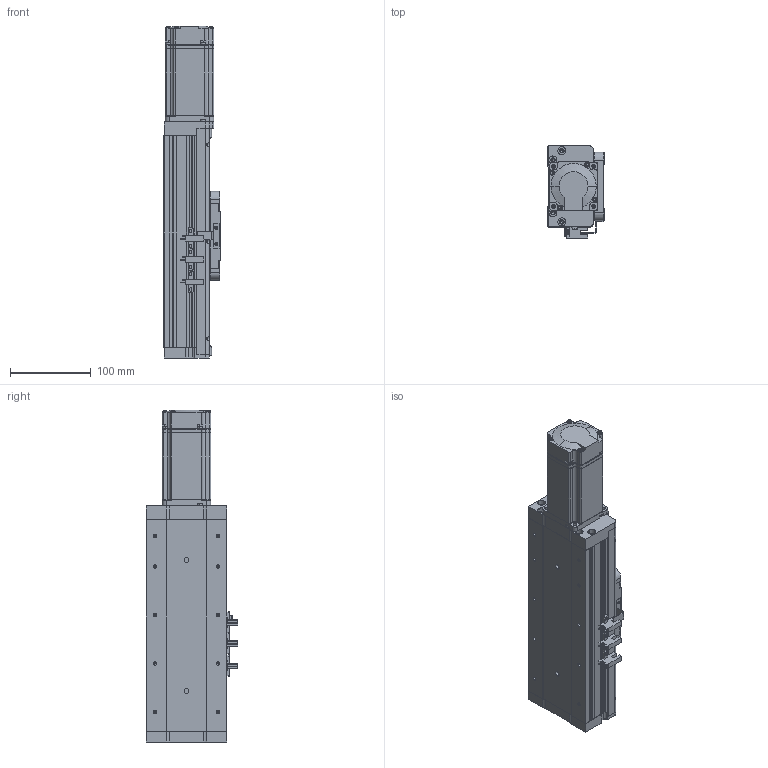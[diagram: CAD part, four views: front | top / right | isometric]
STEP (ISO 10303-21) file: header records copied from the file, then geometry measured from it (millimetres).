
FILE_DESCRIPTION (( 'STEP AP214' ), '1' );
FILE_NAME ('KSD100S-S50-MN-CR.STEP', '2019-09-02T08:37:13', ( '微软用户' ), ( '微软中国' ), 'SwSTEP 2.0', 'SolidWorks 2014', '' );
FILE_SCHEMA (( 'AUTOMOTIVE_DESIGN' ));
Length unit declared in the file: millimetre
Products named in the file (12): MHMD042G1CA_2_03; U倰嫖萇EEㄜSX672; 感应片100宽全封闭; 100宽马达安装板全封闭不带电机座; 100宽端板全封闭; 100宽滚珠螺姆安装板1防护罩; 100宽滚珠螺姆安装板1; 100宽盖板压板不带电机座; 100宽盖板50行程不带电机座; 100宽侧板50行程不带电机座; 100宽底板全封闭50行程不带电机座; KSD100S-S50-MN-CR
Assembly tree (15 placements, depth 2):
  KSD100S-S50-MN-CR
    100宽底板全封闭50行程不带电机座
    100宽侧板50行程不带电机座  x2
    100宽盖板50行程不带电机座
    100宽盖板压板不带电机座  x2
    100宽滚珠螺姆安装板1
    100宽滚珠螺姆安装板1防护罩
    100宽端板全封闭
    100宽马达安装板全封闭不带电机座
    感应片100宽全封闭
    U倰嫖萇EEㄜSX672  x3
    MHMD042G1CA_2_03
Bounding box: 70 x 113.7 x 410.5 mm (x, y, z)
Volume: 697550.8 mm3; surface area: 332529.4 mm2
Topology: 14 solids, 15 shells, 1388 faces, 3894 edges, 2520 vertices
Faces by surface type: plane 652, cylinder 561, cone 157, bspline 18
Entity records: 47234 total; most frequent: CARTESIAN_POINT 7309, DIRECTION 6443, ORIENTED_EDGE 6048, EDGE_CURVE 3096, AXIS2_PLACEMENT_3D 2254, VERTEX_POINT 2058, LINE 1935, VECTOR 1935
